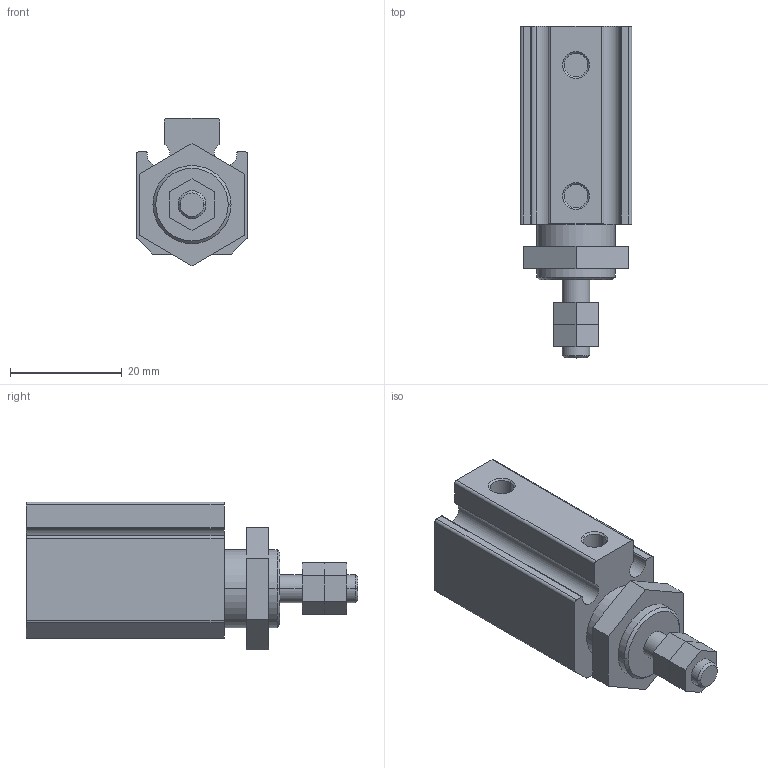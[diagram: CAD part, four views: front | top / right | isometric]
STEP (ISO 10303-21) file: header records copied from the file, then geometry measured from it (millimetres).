
FILE_DESCRIPTION((''),'2;1');
FILE_NAME('D:\CHANTO-3D-已完成\2010\第三大類\第三大類-3D\AAP-3D\AAP16X10.stp','2010-09-18T08:42:02',('Administrator'),(''),'Autodesk Inventor 8','Autodesk Inventor 8','');
FILE_SCHEMA(('AUTOMOTIVE_DESIGN { 1 0 10303 214 1 1 1 1 }'));
Length unit declared in the file: millimetre
Products named in the file (1): AAP16X10
Bounding box: 20 x 59.5 x 26.47 mm (x, y, z)
Volume: 16840.2 mm3; surface area: 5565.2 mm2
Topology: 1 solids, 1 shells, 78 faces, 190 edges, 124 vertices
Faces by surface type: plane 40, cylinder 30, cone 8
Entity records: 2321 total; most frequent: DIRECTION 416, CARTESIAN_POINT 393, ORIENTED_EDGE 380, EDGE_CURVE 190, AXIS2_PLACEMENT_3D 147, VERTEX_POINT 124, VECTOR 122, LINE 122
